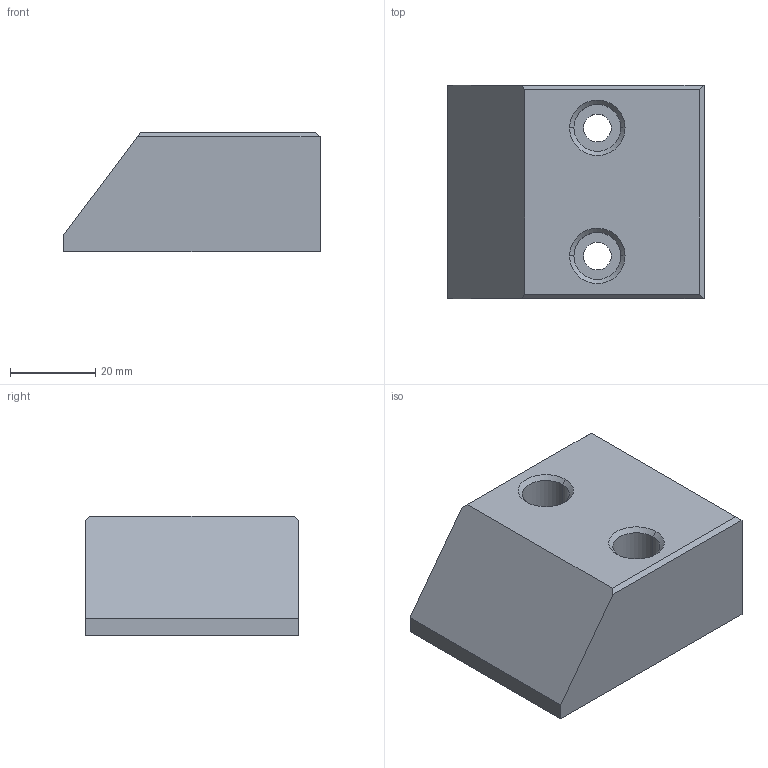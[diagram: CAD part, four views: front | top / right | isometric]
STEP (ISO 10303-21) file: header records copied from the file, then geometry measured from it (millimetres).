
FILE_DESCRIPTION(('CATIA V5 STEP Exchange'),'2;1');
FILE_NAME('C:\Users\Administrator\Desktop\汕德卡换档扶手\上盖板安装治具\上盖板上支承块-07\SZDK-4.stp','2021-12-03T02:57:58+00:00',('none'),('none'),'CATIA Version 5 Release 20 GA (IN-10)','CATIA V5 STEP AP203','none');
FILE_SCHEMA(('CONFIG_CONTROL_DESIGN'));
Length unit declared in the file: millimetre
Products named in the file (1): SZDK-4
Bounding box: 60 x 50 x 28 mm (x, y, z)
Volume: 68764.5 mm3; surface area: 12586.1 mm2
Topology: 1 solids, 1 shells, 24 faces, 54 edges, 34 vertices
Faces by surface type: plane 12, cylinder 8, cone 4
Entity records: 671 total; most frequent: CARTESIAN_POINT 112, ORIENTED_EDGE 108, DIRECTION 88, EDGE_CURVE 54, AXIS2_PLACEMENT_3D 40, VERTEX_POINT 34, VECTOR 30, EDGE_LOOP 30
